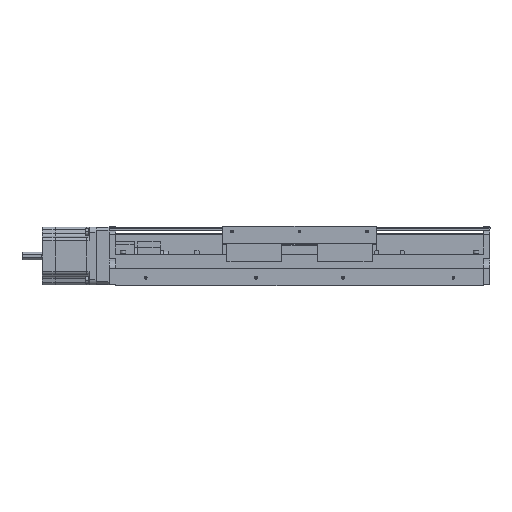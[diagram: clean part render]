
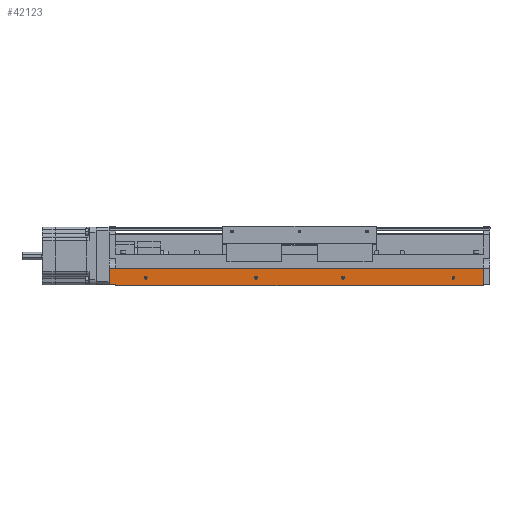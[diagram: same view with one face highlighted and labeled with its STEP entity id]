
A CAD part, front view. The second image highlights one B-rep face of the part: STEP entity #42123.
In plain terms, the highlighted planar face has unit normal (0, -1, 0).
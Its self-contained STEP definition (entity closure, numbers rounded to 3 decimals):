
#123 = AXIS2_PLACEMENT_3D ( 'NONE', #14597, #50349, #7808 ) ;
#1108 = DIRECTION ( 'NONE',  ( 0., -1., 0. ) ) ;
#1735 = CARTESIAN_POINT ( 'NONE',  ( -196.44, -224.7, -489.363 ) ) ;
#3292 = ORIENTED_EDGE ( 'NONE', *, *, #49743, .T. ) ;
#3298 = CARTESIAN_POINT ( 'NONE',  ( -196.44, -224.7, -507.363 ) ) ;
#3553 = VERTEX_POINT ( 'NONE', #52912 ) ;
#3707 = FACE_BOUND ( 'NONE', #47028, .T. ) ;
#3836 = AXIS2_PLACEMENT_3D ( 'NONE', #30803, #1108, #43153 ) ;
#3887 = VERTEX_POINT ( 'NONE', #60717 ) ;
#5627 = LINE ( 'NONE', #12388, #50715 ) ;
#5846 = DIRECTION ( 'NONE',  ( 0., 0., -1. ) ) ;
#6849 = DIRECTION ( 'NONE',  ( 0., 0., -1. ) ) ;
#6870 = ORIENTED_EDGE ( 'NONE', *, *, #18130, .F. ) ;
#7508 = CARTESIAN_POINT ( 'NONE',  ( -199.94, -224.7, -506.363 ) ) ;
#7600 = CIRCLE ( 'NONE', #70574, 1.5 ) ;
#7808 = DIRECTION ( 'NONE',  ( 0., 0., -1. ) ) ;
#9982 = EDGE_CURVE ( 'NONE', #27500, #3553, #39445, .T. ) ;
#10235 = ORIENTED_EDGE ( 'NONE', *, *, #76444, .F. ) ;
#10532 = ORIENTED_EDGE ( 'NONE', *, *, #43600, .F. ) ;
#11389 = VERTEX_POINT ( 'NONE', #42297 ) ;
#12272 = CARTESIAN_POINT ( 'NONE',  ( 154.56, -224.7, -498.863 ) ) ;
#12362 = DIRECTION ( 'NONE',  ( 0., -1., 0. ) ) ;
#12388 = CARTESIAN_POINT ( 'NONE',  ( -203.44, -224.7, -489.363 ) ) ;
#14031 = LINE ( 'NONE', #3298, #14117 ) ;
#14117 = VECTOR ( 'NONE', #39807, 1000. ) ;
#14597 = CARTESIAN_POINT ( 'NONE',  ( 39.56, -224.7, -498.863 ) ) ;
#15257 = DIRECTION ( 'NONE',  ( 0., -1., 0. ) ) ;
#15488 = EDGE_CURVE ( 'NONE', #70782, #47596, #7600, .T. ) ;
#16469 = CARTESIAN_POINT ( 'NONE',  ( -196.44, -224.7, -489.363 ) ) ;
#16722 = DIRECTION ( 'NONE',  ( 0., 0., -1. ) ) ;
#16990 = CIRCLE ( 'NONE', #123, 1.5 ) ;
#17083 = EDGE_CURVE ( 'NONE', #25423, #42393, #21391, .T. ) ;
#17233 = CARTESIAN_POINT ( 'NONE',  ( -165.44, -224.7, -498.863 ) ) ;
#18049 = CARTESIAN_POINT ( 'NONE',  ( -165.44, -224.7, -498.863 ) ) ;
#18130 = EDGE_CURVE ( 'NONE', #42164, #48221, #45703, .T. ) ;
#18410 = VERTEX_POINT ( 'NONE', #51110 ) ;
#19471 = LINE ( 'NONE', #1735, #38296 ) ;
#20453 = CARTESIAN_POINT ( 'NONE',  ( 154.56, -224.7, -500.363 ) ) ;
#21391 = CIRCLE ( 'NONE', #49015, 1.5 ) ;
#21519 = DIRECTION ( 'NONE',  ( 0., 0., -1. ) ) ;
#22289 = EDGE_LOOP ( 'NONE', ( #6870, #26841 ) ) ;
#24385 = ORIENTED_EDGE ( 'NONE', *, *, #76341, .F. ) ;
#24607 = DIRECTION ( 'NONE',  ( 0., 0., -1. ) ) ;
#25418 = VECTOR ( 'NONE', #43914, 1000. ) ;
#25423 = VERTEX_POINT ( 'NONE', #20453 ) ;
#25765 = CARTESIAN_POINT ( 'NONE',  ( -50.44, -224.7, -498.863 ) ) ;
#26277 = VERTEX_POINT ( 'NONE', #55181 ) ;
#26481 = EDGE_LOOP ( 'NONE', ( #39614, #69560 ) ) ;
#26841 = ORIENTED_EDGE ( 'NONE', *, *, #57413, .F. ) ;
#26943 = CARTESIAN_POINT ( 'NONE',  ( 39.56, -224.7, -497.363 ) ) ;
#27074 = VERTEX_POINT ( 'NONE', #32708 ) ;
#27347 = LINE ( 'NONE', #61798, #25418 ) ;
#27500 = VERTEX_POINT ( 'NONE', #45527 ) ;
#28258 = CARTESIAN_POINT ( 'NONE',  ( 154.56, -224.7, -497.363 ) ) ;
#28315 = EDGE_CURVE ( 'NONE', #18410, #26277, #35721, .T. ) ;
#28660 = VERTEX_POINT ( 'NONE', #76627 ) ;
#30729 = ORIENTED_EDGE ( 'NONE', *, *, #60071, .T. ) ;
#30803 = CARTESIAN_POINT ( 'NONE',  ( 154.56, -224.7, -498.863 ) ) ;
#31318 = EDGE_LOOP ( 'NONE', ( #34606, #10532 ) ) ;
#31394 = DIRECTION ( 'NONE',  ( 1., 0., 0. ) ) ;
#31898 = AXIS2_PLACEMENT_3D ( 'NONE', #42497, #60903, #73527 ) ;
#32708 = CARTESIAN_POINT ( 'NONE',  ( -196.44, -224.7, -507.363 ) ) ;
#34606 = ORIENTED_EDGE ( 'NONE', *, *, #17083, .F. ) ;
#35676 = DIRECTION ( 'NONE',  ( 0., 0., -1. ) ) ;
#35721 = LINE ( 'NONE', #7508, #72382 ) ;
#36162 = AXIS2_PLACEMENT_3D ( 'NONE', #18049, #66959, #24607 ) ;
#36705 = CARTESIAN_POINT ( 'NONE',  ( -165.44, -224.7, -500.363 ) ) ;
#37925 = ORIENTED_EDGE ( 'NONE', *, *, #47529, .F. ) ;
#38296 = VECTOR ( 'NONE', #43783, 1000. ) ;
#39445 = CIRCLE ( 'NONE', #45578, 1.5 ) ;
#39614 = ORIENTED_EDGE ( 'NONE', *, *, #15488, .F. ) ;
#39807 = DIRECTION ( 'NONE',  ( 1., 0., 0. ) ) ;
#41418 = ORIENTED_EDGE ( 'NONE', *, *, #56944, .T. ) ;
#41463 = DIRECTION ( 'NONE',  ( 0., -1., 0. ) ) ;
#42123 = ADVANCED_FACE ( 'NONE', ( #46896, #3707, #58222, #45983, #44106 ), #72479, .T. ) ;
#42164 = VERTEX_POINT ( 'NONE', #36705 ) ;
#42297 = CARTESIAN_POINT ( 'NONE',  ( 185.56, -224.7, -507.363 ) ) ;
#42393 = VERTEX_POINT ( 'NONE', #28258 ) ;
#42497 = CARTESIAN_POINT ( 'NONE',  ( -196.44, -224.7, -489.363 ) ) ;
#42568 = AXIS2_PLACEMENT_3D ( 'NONE', #17233, #41463, #47482 ) ;
#42884 = DIRECTION ( 'NONE',  ( 0., -1., 0. ) ) ;
#43153 = DIRECTION ( 'NONE',  ( 0., 0., -1. ) ) ;
#43600 = EDGE_CURVE ( 'NONE', #42393, #25423, #74992, .T. ) ;
#43783 = DIRECTION ( 'NONE',  ( 1., 0., 0. ) ) ;
#43914 = DIRECTION ( 'NONE',  ( 0., 0., -1. ) ) ;
#44106 = FACE_OUTER_BOUND ( 'NONE', #67827, .T. ) ;
#44324 = AXIS2_PLACEMENT_3D ( 'NONE', #75987, #15257, #21519 ) ;
#45527 = CARTESIAN_POINT ( 'NONE',  ( -50.44, -224.7, -497.363 ) ) ;
#45578 = AXIS2_PLACEMENT_3D ( 'NONE', #25765, #42884, #62606 ) ;
#45703 = CIRCLE ( 'NONE', #42568, 1.5 ) ;
#45983 = FACE_BOUND ( 'NONE', #31318, .T. ) ;
#46896 = FACE_BOUND ( 'NONE', #22289, .T. ) ;
#47028 = EDGE_LOOP ( 'NONE', ( #10235, #50155 ) ) ;
#47482 = DIRECTION ( 'NONE',  ( 0., 0., -1. ) ) ;
#47529 = EDGE_CURVE ( 'NONE', #28660, #3887, #19471, .T. ) ;
#47596 = VERTEX_POINT ( 'NONE', #26943 ) ;
#48221 = VERTEX_POINT ( 'NONE', #52897 ) ;
#49015 = AXIS2_PLACEMENT_3D ( 'NONE', #12272, #59608, #35676 ) ;
#49743 = EDGE_CURVE ( 'NONE', #26277, #27074, #66194, .T. ) ;
#50155 = ORIENTED_EDGE ( 'NONE', *, *, #9982, .F. ) ;
#50349 = DIRECTION ( 'NONE',  ( 0., -1., 0. ) ) ;
#50715 = VECTOR ( 'NONE', #5846, 1000. ) ;
#51110 = CARTESIAN_POINT ( 'NONE',  ( -203.44, -224.7, -506.363 ) ) ;
#52530 = CIRCLE ( 'NONE', #36162, 1.5 ) ;
#52897 = CARTESIAN_POINT ( 'NONE',  ( -165.44, -224.7, -497.363 ) ) ;
#52912 = CARTESIAN_POINT ( 'NONE',  ( -50.44, -224.7, -500.363 ) ) ;
#55181 = CARTESIAN_POINT ( 'NONE',  ( -196.44, -224.7, -506.363 ) ) ;
#56944 = EDGE_CURVE ( 'NONE', #28660, #18410, #5627, .T. ) ;
#57413 = EDGE_CURVE ( 'NONE', #48221, #42164, #52530, .T. ) ;
#57438 = CIRCLE ( 'NONE', #44324, 1.5 ) ;
#58222 = FACE_BOUND ( 'NONE', #26481, .T. ) ;
#59608 = DIRECTION ( 'NONE',  ( 0., -1., 0. ) ) ;
#60071 = EDGE_CURVE ( 'NONE', #27074, #11389, #14031, .T. ) ;
#60717 = CARTESIAN_POINT ( 'NONE',  ( 185.56, -224.7, -489.363 ) ) ;
#60903 = DIRECTION ( 'NONE',  ( 0., -1., 0. ) ) ;
#60996 = CARTESIAN_POINT ( 'NONE',  ( 39.56, -224.7, -498.863 ) ) ;
#61777 = ORIENTED_EDGE ( 'NONE', *, *, #28315, .T. ) ;
#61798 = CARTESIAN_POINT ( 'NONE',  ( 185.56, -224.7, -489.363 ) ) ;
#62606 = DIRECTION ( 'NONE',  ( 0., 0., -1. ) ) ;
#66194 = LINE ( 'NONE', #16469, #68091 ) ;
#66959 = DIRECTION ( 'NONE',  ( 0., -1., 0. ) ) ;
#67827 = EDGE_LOOP ( 'NONE', ( #24385, #37925, #41418, #61777, #3292, #30729 ) ) ;
#68091 = VECTOR ( 'NONE', #16722, 1000. ) ;
#68425 = EDGE_CURVE ( 'NONE', #47596, #70782, #16990, .T. ) ;
#69560 = ORIENTED_EDGE ( 'NONE', *, *, #68425, .F. ) ;
#70574 = AXIS2_PLACEMENT_3D ( 'NONE', #60996, #12362, #6849 ) ;
#70782 = VERTEX_POINT ( 'NONE', #73192 ) ;
#72382 = VECTOR ( 'NONE', #31394, 1000. ) ;
#72479 = PLANE ( 'NONE',  #31898 ) ;
#73192 = CARTESIAN_POINT ( 'NONE',  ( 39.56, -224.7, -500.363 ) ) ;
#73527 = DIRECTION ( 'NONE',  ( -1., 0., 0. ) ) ;
#74992 = CIRCLE ( 'NONE', #3836, 1.5 ) ;
#75987 = CARTESIAN_POINT ( 'NONE',  ( -50.44, -224.7, -498.863 ) ) ;
#76341 = EDGE_CURVE ( 'NONE', #3887, #11389, #27347, .T. ) ;
#76444 = EDGE_CURVE ( 'NONE', #3553, #27500, #57438, .T. ) ;
#76627 = CARTESIAN_POINT ( 'NONE',  ( -203.44, -224.7, -489.363 ) ) ;
